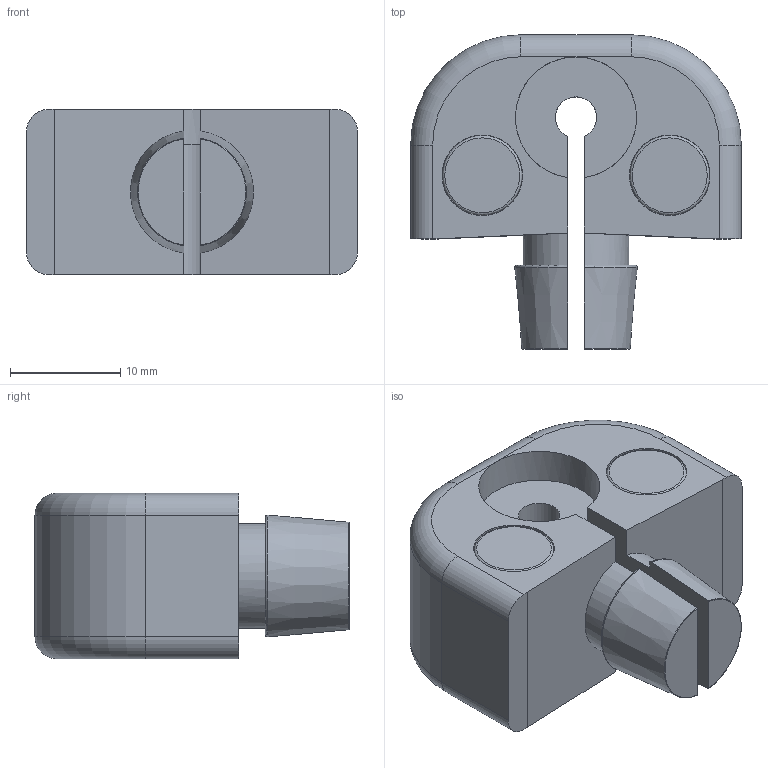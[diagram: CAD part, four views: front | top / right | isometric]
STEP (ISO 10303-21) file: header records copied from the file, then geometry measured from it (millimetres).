
FILE_DESCRIPTION (( 'STEP AP214' ), '1' );
FILE_NAME ('L15138.step', '2024-12-03T16:18:34', ( '' ), ( '' ), 'SwSTEP 2.0', 'SolidWorks 2023', '' );
FILE_SCHEMA (( 'AUTOMOTIVE_DESIGN' ));
Length unit declared in the file: millimetre
Products named in the file (1): L15138
Bounding box: 30 x 28.5 x 15 mm (x, y, z)
Volume: 7386.6 mm3; surface area: 4338.6 mm2
Topology: 3 solids, 3 shells, 125 faces, 316 edges, 207 vertices
Faces by surface type: plane 58, bspline 39, cylinder 16, torus 10, cone 2
Full cylindrical faces by diameter (mm): 7.2 x2, 7.3 x2
Entity records: 5888 total; most frequent: CARTESIAN_POINT 3116, ORIENTED_EDGE 620, DIRECTION 437, EDGE_CURVE 310, VERTEX_POINT 207, VECTOR 173, LINE 173, EDGE_LOOP 141
